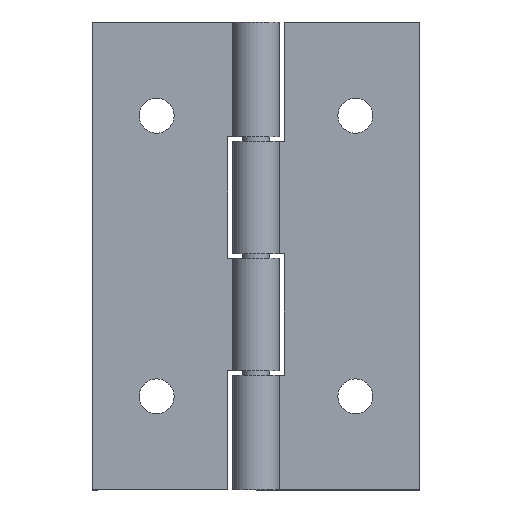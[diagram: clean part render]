
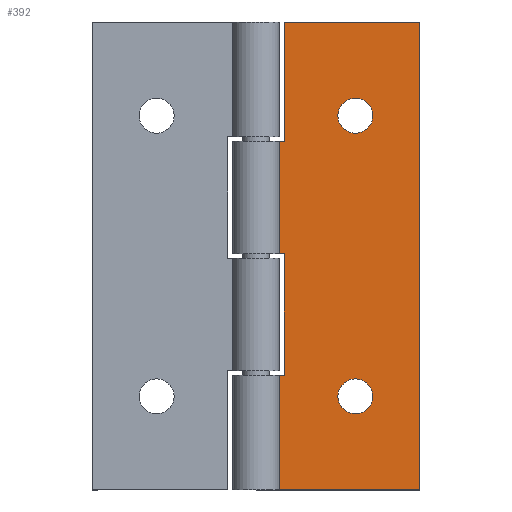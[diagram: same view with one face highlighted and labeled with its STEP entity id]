
A CAD part, top view. The second image highlights one B-rep face of the part: STEP entity #392.
In plain terms, the highlighted planar face has unit normal (0, 0, 1).
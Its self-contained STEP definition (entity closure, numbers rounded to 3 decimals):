
#43=CIRCLE('',#443,0.75);
#44=CIRCLE('',#444,0.75);
#63=ORIENTED_EDGE('',*,*,#163,.F.);
#64=ORIENTED_EDGE('',*,*,#164,.F.);
#65=ORIENTED_EDGE('',*,*,#165,.F.);
#66=ORIENTED_EDGE('',*,*,#166,.F.);
#67=ORIENTED_EDGE('',*,*,#167,.F.);
#68=ORIENTED_EDGE('',*,*,#168,.F.);
#69=ORIENTED_EDGE('',*,*,#169,.F.);
#70=ORIENTED_EDGE('',*,*,#170,.F.);
#71=ORIENTED_EDGE('',*,*,#171,.F.);
#72=ORIENTED_EDGE('',*,*,#172,.F.);
#73=ORIENTED_EDGE('',*,*,#173,.T.);
#74=ORIENTED_EDGE('',*,*,#174,.T.);
#163=EDGE_CURVE('',#213,#213,#43,.T.);
#164=EDGE_CURVE('',#214,#214,#44,.T.);
#165=EDGE_CURVE('',#215,#216,#249,.T.);
#166=EDGE_CURVE('',#217,#215,#250,.T.);
#167=EDGE_CURVE('',#218,#217,#251,.T.);
#168=EDGE_CURVE('',#219,#218,#252,.T.);
#169=EDGE_CURVE('',#220,#219,#253,.T.);
#170=EDGE_CURVE('',#221,#220,#254,.T.);
#171=EDGE_CURVE('',#222,#221,#255,.T.);
#172=EDGE_CURVE('',#223,#222,#256,.T.);
#173=EDGE_CURVE('',#223,#224,#257,.T.);
#174=EDGE_CURVE('',#224,#216,#258,.T.);
#213=VERTEX_POINT('',#615);
#214=VERTEX_POINT('',#617);
#215=VERTEX_POINT('',#619);
#216=VERTEX_POINT('',#620);
#217=VERTEX_POINT('',#622);
#218=VERTEX_POINT('',#624);
#219=VERTEX_POINT('',#626);
#220=VERTEX_POINT('',#628);
#221=VERTEX_POINT('',#630);
#222=VERTEX_POINT('',#632);
#223=VERTEX_POINT('',#634);
#224=VERTEX_POINT('',#636);
#249=LINE('',#618,#283);
#250=LINE('',#621,#284);
#251=LINE('',#623,#285);
#252=LINE('',#625,#286);
#253=LINE('',#627,#287);
#254=LINE('',#629,#288);
#255=LINE('',#631,#289);
#256=LINE('',#633,#290);
#257=LINE('',#635,#291);
#258=LINE('',#637,#292);
#283=VECTOR('',#497,1000.);
#284=VECTOR('',#498,1000.);
#285=VECTOR('',#499,1000.);
#286=VECTOR('',#500,1000.);
#287=VECTOR('',#501,1000.);
#288=VECTOR('',#502,1000.);
#289=VECTOR('',#503,1000.);
#290=VECTOR('',#504,1000.);
#291=VECTOR('',#505,1000.);
#292=VECTOR('',#506,1000.);
#314=EDGE_LOOP('',(#63));
#315=EDGE_LOOP('',(#64));
#316=EDGE_LOOP('',(#65,#66,#67,#68,#69,#70,#71,#72,#73,#74));
#346=FACE_BOUND('',#314,.T.);
#347=FACE_BOUND('',#315,.T.);
#348=FACE_BOUND('',#316,.T.);
#378=PLANE('',#442);
#392=ADVANCED_FACE('',(#346,#347,#348),#378,.F.);
#442=AXIS2_PLACEMENT_3D('',#613,#491,#492);
#443=AXIS2_PLACEMENT_3D('',#614,#493,#494);
#444=AXIS2_PLACEMENT_3D('',#616,#495,#496);
#491=DIRECTION('',(0.,0.,-1.));
#492=DIRECTION('',(-1.,0.,0.));
#493=DIRECTION('',(0.,0.,1.));
#494=DIRECTION('',(1.,0.,0.));
#495=DIRECTION('',(0.,0.,1.));
#496=DIRECTION('',(1.,0.,0.));
#497=DIRECTION('',(0.,1.,0.));
#498=DIRECTION('',(1.,0.,0.));
#499=DIRECTION('',(0.,1.,0.));
#500=DIRECTION('',(-1.,0.,0.));
#501=DIRECTION('',(0.,1.,0.));
#502=DIRECTION('',(1.,0.,0.));
#503=DIRECTION('',(0.,1.,0.));
#504=DIRECTION('',(-1.,0.,0.));
#505=DIRECTION('',(0.,1.,0.));
#506=DIRECTION('',(-1.,0.,0.));
#613=CARTESIAN_POINT('',(0.,0.,0.4));
#614=CARTESIAN_POINT('',(-2.75,4.,0.4));
#615=CARTESIAN_POINT('',(-2.,4.,0.4));
#616=CARTESIAN_POINT('',(-2.75,16.,0.4));
#617=CARTESIAN_POINT('',(-2.,16.,0.4));
#618=CARTESIAN_POINT('',(-5.8,0.,0.4));
#619=CARTESIAN_POINT('',(-5.8,14.9,0.4));
#620=CARTESIAN_POINT('',(-5.8,20.,0.4));
#621=CARTESIAN_POINT('',(0.,14.9,0.4));
#622=CARTESIAN_POINT('',(-7.,14.9,0.4));
#623=CARTESIAN_POINT('',(-7.,0.,0.4));
#624=CARTESIAN_POINT('',(-7.,10.1,0.4));
#625=CARTESIAN_POINT('',(0.,10.1,0.4));
#626=CARTESIAN_POINT('',(-5.8,10.1,0.4));
#627=CARTESIAN_POINT('',(-5.8,0.,0.4));
#628=CARTESIAN_POINT('',(-5.8,4.9,0.4));
#629=CARTESIAN_POINT('',(0.,4.9,0.4));
#630=CARTESIAN_POINT('',(-7.,4.9,0.4));
#631=CARTESIAN_POINT('',(-7.,0.,0.4));
#632=CARTESIAN_POINT('',(-7.,0.,0.4));
#633=CARTESIAN_POINT('',(0.,0.,0.4));
#634=CARTESIAN_POINT('',(0.,0.,0.4));
#635=CARTESIAN_POINT('',(0.,0.,0.4));
#636=CARTESIAN_POINT('',(0.,20.,0.4));
#637=CARTESIAN_POINT('',(0.,20.,0.4));
